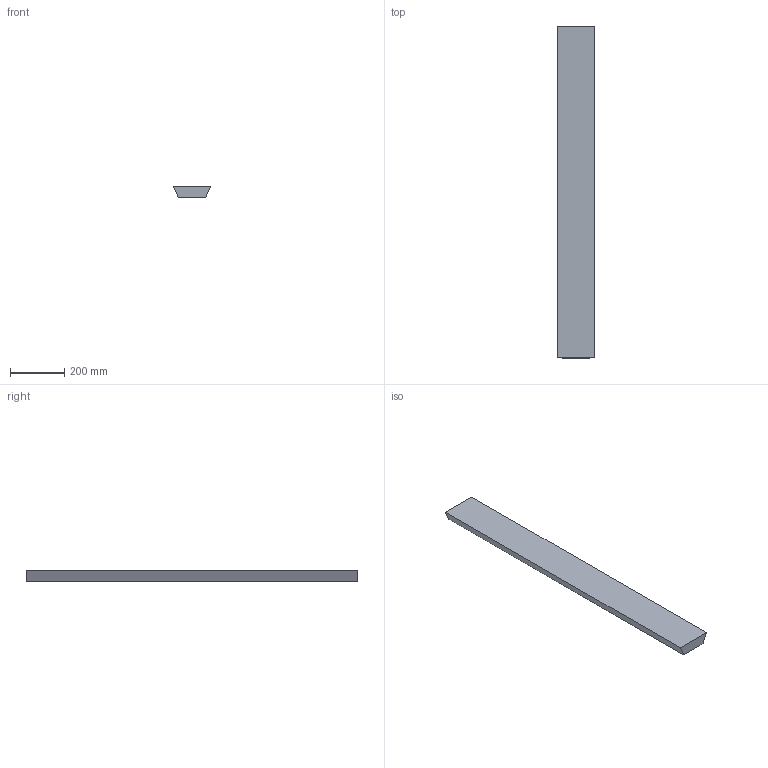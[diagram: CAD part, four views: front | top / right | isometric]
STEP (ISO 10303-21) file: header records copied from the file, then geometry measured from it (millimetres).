
FILE_DESCRIPTION (( 'STEP AP214' ), '1' );
FILE_NAME ('End Wall Inserts Website.STEP', '2020-06-16T23:18:36', ( '' ), ( '' ), 'SwSTEP 2.0', 'SolidWorks 2020', '' );
FILE_SCHEMA (( 'AUTOMOTIVE_DESIGN' ));
Length unit declared in the file: inch
Products named in the file (1): End Wall Inserts Website
Bounding box: 136.53 x 1219.2 x 41.27 mm (x, y, z)
Volume: 5951576.8 mm3; surface area: 408200 mm2
Topology: 1 solids, 1 shells, 6 faces, 12 edges, 8 vertices
Faces by surface type: plane 6
Entity records: 196 total; most frequent: CARTESIAN_POINT 27, DIRECTION 26, ORIENTED_EDGE 24, VECTOR 12, EDGE_CURVE 12, LINE 12, VERTEX_POINT 8, AXIS2_PLACEMENT_3D 7
